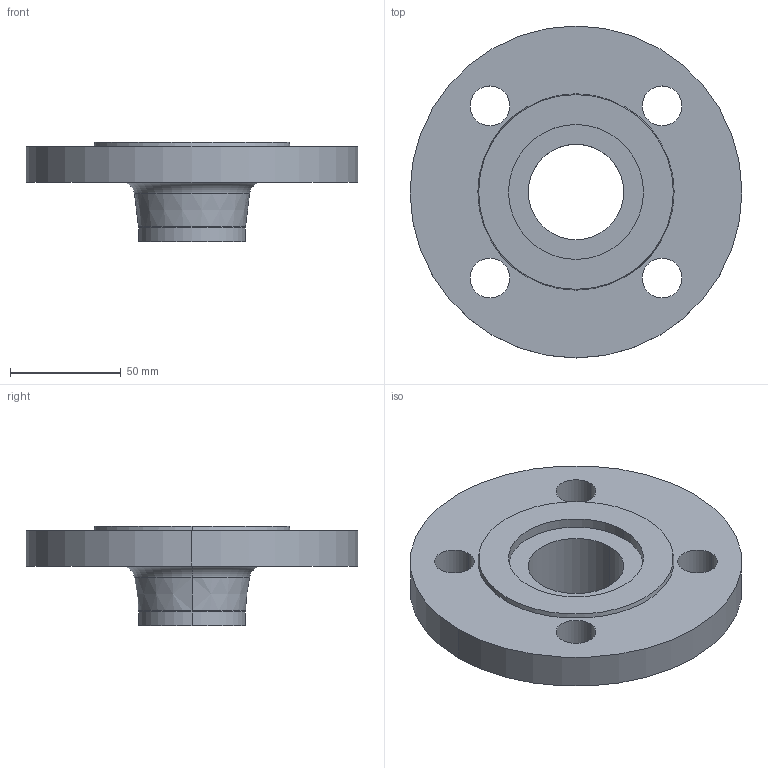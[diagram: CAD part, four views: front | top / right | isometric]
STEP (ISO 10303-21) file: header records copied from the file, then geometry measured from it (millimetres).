
FILE_DESCRIPTION (( 'STEP AP214' ), '1' );
FILE_NAME ('PN40 DN40 Type 11 - Type G Face.STEP', '2018-12-30T02:11:06', ( '' ), ( '' ), 'SwSTEP 2.0', 'SolidWorks 2019', '' );
FILE_SCHEMA (( 'AUTOMOTIVE_DESIGN' ));
Length unit declared in the file: millimetre
Products named in the file (1): PN40 DN40 Type 11 - Type G Face
Bounding box: 150 x 150 x 45 mm (x, y, z)
Volume: 261040.2 mm3; surface area: 51930.3 mm2
Topology: 1 solids, 1 shells, 29 faces, 66 edges, 42 vertices
Faces by surface type: cylinder 16, plane 5, torus 4, cone 4
Entity records: 892 total; most frequent: DIRECTION 172, CARTESIAN_POINT 138, ORIENTED_EDGE 132, AXIS2_PLACEMENT_3D 76, EDGE_CURVE 66, CIRCLE 46, VERTEX_POINT 42, EDGE_LOOP 42
